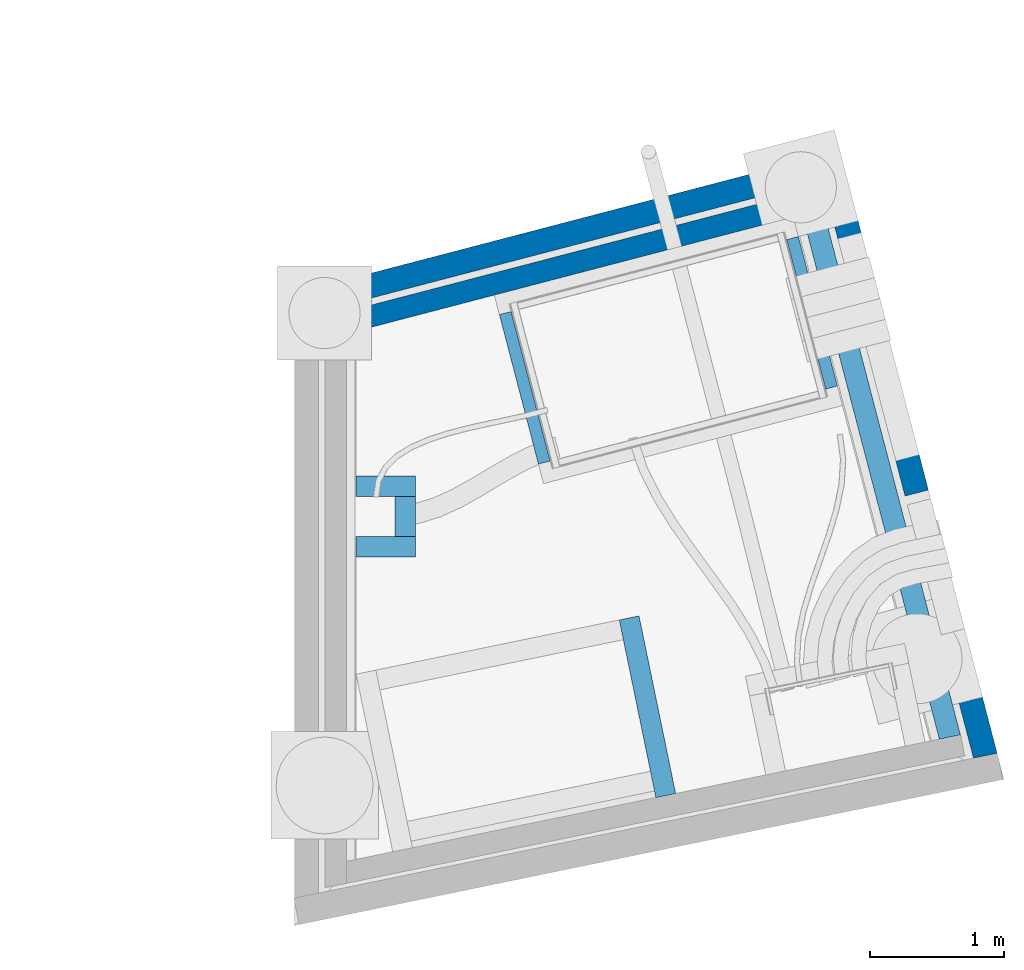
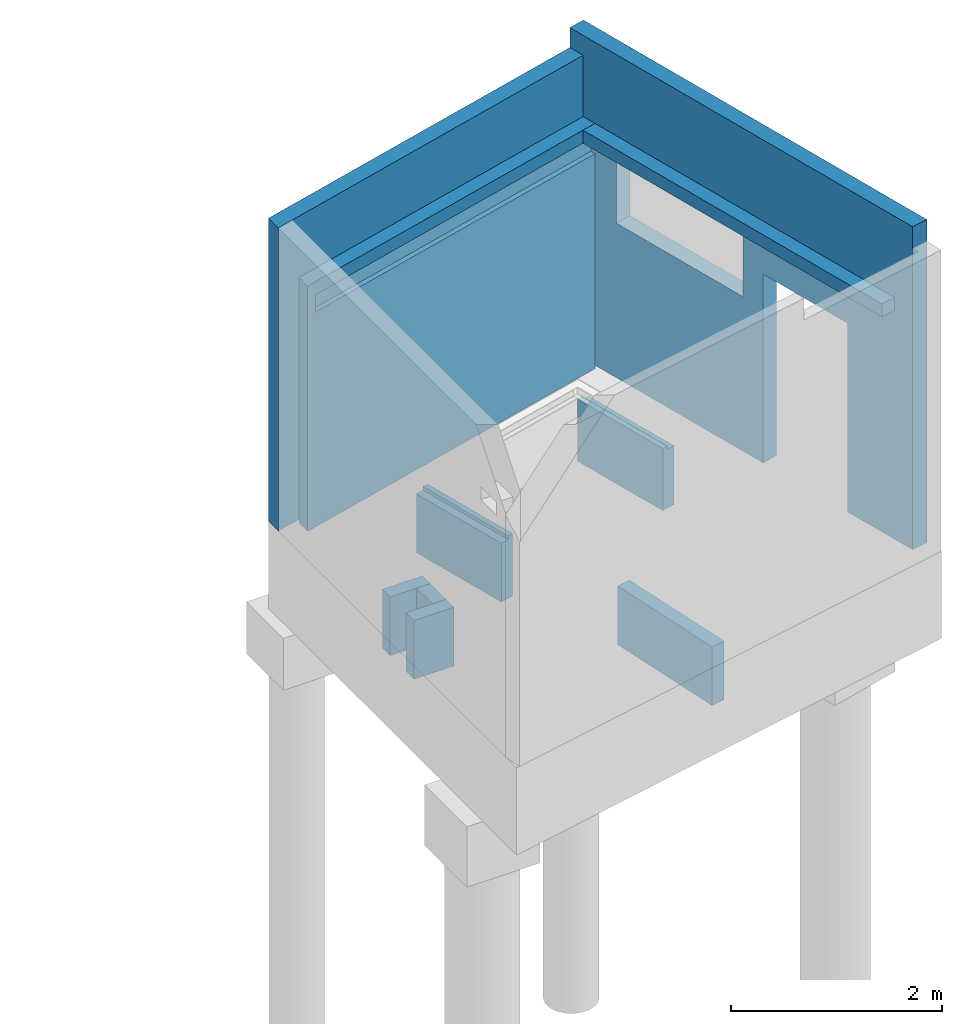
# One storey, part 7 of 29: 10 walls, 7 openings.
"""IFC2X3 building model written with IfcOpenShell, lengths in centimetres."""

from ifc_helpers import new_model, entity, si_unit, converted_unit, derived_unit, direction, frame, frame_2d, origin, place, context, subcontext, project, spatial, polyline, rectangle, outline, extrude, clip, bounded_halfspace, material, layer, layer_set, layer_usage, type_object, element, save


model = new_model("IFC2X3")

# Units and contexts
model_context = context("Model", 3, precision=0.001, world=origin(), true_north=direction((6.12303176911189e-17, 1.0)))
body_context = subcontext(model_context, "Body", "Model", "MODEL_VIEW")
ifc_project = project(units=[si_unit("LENGTHUNIT", "METRE", prefix="CENTI"), si_unit("AREAUNIT", "SQUARE_METRE"), si_unit("VOLUMEUNIT", "CUBIC_METRE"), converted_unit("PLANEANGLEUNIT", "DEGREE", entity("IfcRatioMeasure", 0.0174532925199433), si_unit("PLANEANGLEUNIT", "RADIAN"), dimensions=[0, 0, 0, 0, 0, 0, 0]), si_unit("MASSUNIT", "GRAM", prefix="KILO"), derived_unit("MASSDENSITYUNIT", [(si_unit("MASSUNIT", "GRAM", prefix="KILO"), 1), (si_unit("LENGTHUNIT", "METRE"), -3)]), si_unit("TIMEUNIT", "SECOND"), si_unit("FREQUENCYUNIT", "HERTZ"), si_unit("THERMODYNAMICTEMPERATUREUNIT", "DEGREE_CELSIUS"), derived_unit("THERMALTRANSMITTANCEUNIT", [(si_unit("MASSUNIT", "GRAM", prefix="KILO"), 1), (si_unit("THERMODYNAMICTEMPERATUREUNIT", "KELVIN"), -1), (si_unit("TIMEUNIT", "SECOND"), -3)]), derived_unit("VOLUMETRICFLOWRATEUNIT", [(si_unit("LENGTHUNIT", "METRE"), 3), (si_unit("TIMEUNIT", "SECOND"), -1)]), si_unit("ELECTRICCURRENTUNIT", "AMPERE"), si_unit("ELECTRICVOLTAGEUNIT", "VOLT"), si_unit("POWERUNIT", "WATT"), si_unit("FORCEUNIT", "NEWTON"), si_unit("ILLUMINANCEUNIT", "LUX"), si_unit("LUMINOUSFLUXUNIT", "LUMEN"), si_unit("LUMINOUSINTENSITYUNIT", "CANDELA"), derived_unit("USERDEFINED", [(si_unit("MASSUNIT", "GRAM", prefix="KILO"), -1), (si_unit("LENGTHUNIT", "METRE"), -2), (si_unit("TIMEUNIT", "SECOND"), 3), (si_unit("LUMINOUSFLUXUNIT", "LUMEN"), 1)]), derived_unit("LINEARVELOCITYUNIT", [(si_unit("LENGTHUNIT", "METRE"), 1), (si_unit("TIMEUNIT", "SECOND"), -1)]), si_unit("PRESSUREUNIT", "PASCAL"), derived_unit("USERDEFINED", [(si_unit("LENGTHUNIT", "METRE"), -2), (si_unit("MASSUNIT", "GRAM", prefix="KILO"), 1), (si_unit("TIMEUNIT", "SECOND"), -2)])], contexts=[model_context])

# Site, building, storey
site_placement = place(None, origin())
site = spatial("IfcSite", under=ifc_project, at=site_placement, Name="Default", CompositionType="ELEMENT")
building_placement = place(site_placement, origin())
building = spatial("IfcBuilding", under=site, at=building_placement, Name="CAGE 03", CompositionType="ELEMENT")
storey_placement = place(building_placement, frame((0.0, 0.0, -34.0)))
storey = spatial("IfcBuildingStorey", under=building, at=storey_placement, Name="+3.66", CompositionType="ELEMENT", Elevation=-34.0000000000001)

# Wall
ifc_material = material(Name="Béton, C25/30")
ifc_layer_1 = layer(ifc_material, 18.0)
ifc_layer_set_1 = layer_set([ifc_layer_1], Name="Mur de base:Voile BA 18")
ifc_layer_usage_1 = layer_usage(ifc_layer_set_1, "AXIS2", "POSITIVE", -9.0)
wall_type_1 = type_object("IfcWallType", Name="Mur de base:Voile BA 18", PredefinedType="STANDARD", material=ifc_layer_set_1)
wall_1_placement = place(storey_placement, frame((11199.0917029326, 3823.78537578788, 0.0), z_axis=(0.0, 0.0, 1.0), x_axis=(0.967549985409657, 0.252679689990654, 0.0)))
element("IfcWallStandardCase", 1, at=wall_1_placement, inside=storey, type_object=wall_type_1, material=ifc_layer_usage_1, Name="Mur de base:Voile BA 18", ObjectType="Mur de base:Voile BA 18", context=body_context, shape_type="SweptSolid", body=[
    extrude(outline(polyline([(406.360862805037, -9.0), (406.360862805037, 9.0), (4.70077462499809, 9.0), (0.0, -9.0), (18.6036900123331, -9.0), (406.360862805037, -9.0)])), origin(), (0.0, 0.0, 1.0), 351.0),
])

# Wall, openings
ifc_layer_usage_2 = layer_usage(ifc_layer_set_1, "AXIS2", "POSITIVE", -9.0)
wall_2_placement = place(storey_placement, frame((11715.8385133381, 3488.90485544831, 0.0), z_axis=(0.0, 0.0, 1.0), x_axis=(-0.252679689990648, 0.967549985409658, 0.0)))
wall_2 = element("IfcWallStandardCase", 2, at=wall_2_placement, inside=storey, type_object=wall_type_1, material=ifc_layer_usage_2, Name="Mur de base:Voile BA 18", ObjectType="Mur de base:Voile BA 18", context=body_context, shape_type="SweptSolid", body=[
    extrude(outline(polyline([(0.0, -9.0), (202.585066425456, -9.0), (220.585066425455, -9.0), (463.585066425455, -9.0), (463.585066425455, 9.0), (220.585066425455, 9.0), (202.585066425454, 9.0), (0.94029150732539, 9.0), (0.0, -9.0)])), origin(), (0.0, 0.0, 1.0), 374.0),
])
opening_1_placement = place(storey_placement, frame((11715.8385133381, 3488.90485544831, 0.0), z_axis=(0.0, 0.0, 1.0), x_axis=(-0.252679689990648, 0.967549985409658, 0.0)))
element("IfcOpeningElement", 3, at=opening_1_placement, cuts=wall_2, Name="Mur de base:Voile BA 18:1", ObjectType="Opening", context=body_context, shape_type="SweptSolid", body=[
    extrude(rectangle(XDim=17.9999999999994, YDim=171.0, at=frame_2d((-5.02229369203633e-11, -3.12638803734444e-13), x_axis=(1.0, 0.0))), frame((315.085066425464, 0.0, 179.0), z_axis=(0.0, 0.0, 1.0), x_axis=(0.0, 1.0, 0.0)), (0.0, 0.0, 1.0), 69.9999999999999),
])
opening_2_placement = place(wall_2_placement, origin())
element("IfcOpeningElement", 4, at=opening_2_placement, cuts=wall_2, Name="Mur de base:Voile BA 18", ObjectType="Recess", context=body_context, shape_type="SweptSolid", body=[
    extrude(rectangle(XDim=35.5000000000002, YDim=113.5, at=frame_2d((4.19220214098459e-13, -1.4210854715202e-14), x_axis=(0.0, 1.0))), frame((145.835066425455, -9.0, 236.25), z_axis=(0.0, 1.0, 0.0), x_axis=(1.0, 0.0, 0.0)), (0.0, 0.0, 1.0), 1.99999999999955),
])
opening_3_placement = place(wall_2_placement, origin())
element("IfcOpeningElement", 5, at=opening_3_placement, cuts=wall_2, Name="Mur de base:Voile BA 18", ObjectType="Opening", context=body_context, shape_type="SweptSolid", body=[
    extrude(rectangle(XDim=226.0, YDim=18.0000000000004, at=frame_2d((-4.2810199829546e-13, -5.6843418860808e-14), x_axis=(0.0, 1.0))), frame((211.585066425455, 65.0, 487.0), z_axis=(0.0, 1.0, 0.0), x_axis=(1.0, 0.0, 0.0)), (0.0, 0.0, 1.0), 91.0000000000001),
])
opening_4_placement = place(wall_2_placement, origin())
element("IfcOpeningElement", 6, at=opening_4_placement, cuts=wall_2, Name="Mur de base:Voile BA 18", ObjectType="Opening", context=body_context, shape_type="SweptSolid", body=[
    extrude(rectangle(XDim=210.000000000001, YDim=18.0000000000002, at=frame_2d((-4.33431068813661e-13, 0.0), x_axis=(0.0, 1.0))), frame((1315.97882186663, 37.6740974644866, 89.0), z_axis=(0.252679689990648, 0.967549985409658, 0.0), x_axis=(0.967549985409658, -0.252679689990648, 0.0)), (0.0, 0.0, 1.0), 97.0),
])
opening_5_placement = place(wall_2_placement, origin())
element("IfcOpeningElement", 7, at=opening_5_placement, cuts=wall_2, Name="Mur de base:Voile BA 18", ObjectType="Recess", context=body_context, shape_type="SweptSolid", body=[
    extrude(rectangle(XDim=50.0000000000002, YDim=110.0, at=frame_2d((-6.3593574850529e-13, -1.24344978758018e-14), x_axis=(0.0, 1.0))), frame((1022.58506642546, -9.0, 229.0), z_axis=(0.0, 1.0, 0.0), x_axis=(1.0, 0.0, 0.0)), (0.0, 0.0, 1.0), 2.00000000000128),
])
opening_6_placement = place(wall_2_placement, frame((-415.335398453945, 12217.2347799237, 0.0), z_axis=(0.0, 0.0, 1.0), x_axis=(-0.252679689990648, -0.967549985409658, 0.0)))
element("IfcOpeningElement", 8, at=opening_6_placement, cuts=wall_2, Name="Mur de base:Voile BA 18", ObjectType="Opening", context=body_context, shape_type="SweptSolid", body=[
    extrude(rectangle(XDim=218.5, YDim=113.5, at=frame_2d((0.0, 0.0), x_axis=(0.0, 1.0))), frame((11817.7356218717, 3666.24183938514, 109.25), z_axis=(-0.967549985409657, -0.252679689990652, 0.0), x_axis=(0.252679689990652, -0.967549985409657, 0.0)), (0.0, 0.0, 1.0), 304.8),
])

# Wall, opening
ifc_layer_2 = layer(ifc_material, 16.0)
ifc_layer_set_2 = layer_set([ifc_layer_2], Name="Mur de base:Voile BA 16")
ifc_layer_usage_3 = layer_usage(ifc_layer_set_2, "AXIS2", "NEGATIVE", 8.0)
wall_type_2 = type_object("IfcWallType", Name="Mur de base:Voile BA 16", PredefinedType="STANDARD", material=ifc_layer_set_2)
wall_3_placement = place(storey_placement, frame((11222.3443826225, 3807.12006614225, 1.0), z_axis=(0.0, 0.0, 1.0), x_axis=(0.967549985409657, 0.252679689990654, 0.0)))
wall_3 = element("IfcWallStandardCase", 9, at=wall_3_placement, inside=storey, type_object=wall_type_2, material=ifc_layer_usage_3, Name="Mur de base:Voile BA 16", ObjectType="Mur de base:Voile BA 16", context=body_context, shape_type="SweptSolid", body=[
    extrude(outline(polyline([(383.073718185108, -8.0), (383.073718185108, 8.0), (4.17846633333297, 8.0), (0.0, -8.0), (16.5366133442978, -8.0), (383.073718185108, -8.0)])), origin(), (0.0, 0.0, 1.0), 284.0),
])
opening_7_placement = place(storey_placement, frame((11222.3443826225, 3807.12006614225, 1.0), z_axis=(0.0, 0.0, 1.0), x_axis=(0.967549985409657, 0.252679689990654, 0.0)))
element("IfcOpeningElement", 10, at=opening_7_placement, cuts=wall_3, Name="Mur de base:Voile BA 16:1", ObjectType="Opening", context=body_context, shape_type="SweptSolid", body=[
    extrude(outline(polyline([(-221.908777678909, -3.3000000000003), (148.876440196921, -3.30000000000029), (150.312787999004, 2.19999999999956), (144.628327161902, 2.19999999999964), (-221.908777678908, 2.1999999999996), (-221.908777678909, -3.3000000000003)])), frame((161.164940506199, -5.79999999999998, 249.0), z_axis=(0.0, 0.0, 1.0), x_axis=(-1.0, 0.0, 0.0)), (0.0, 0.0, 1.0), 20.0),
])

# Walls
ifc_layer_usage_4 = layer_usage(ifc_layer_set_2, "AXIS2", "NEGATIVE", 8.0)
wall_4_placement = place(storey_placement, frame((11587.2683907, 3894.15317709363, 270.0), z_axis=(0.0, 0.0, 1.0), x_axis=(0.252679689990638, -0.967549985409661, 0.0)))
element("IfcWallStandardCase", 11, at=wall_4_placement, inside=storey, type_object=wall_type_2, material=ifc_layer_usage_4, Name="Mur de base:Voile BA 16", ObjectType="Mur de base:Voile BA 16", context=body_context, shape_type="SweptSolid", body=[
    extrude(outline(polyline([(403.521861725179, -8.0), (404.357676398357, 8.0), (0.0, 8.0), (0.0, -8.0), (403.521861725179, -8.0)])), origin(), (0.0, 0.0, 1.0), 15.0),
])
ifc_layer_3 = layer(ifc_material, 15.0)
ifc_layer_set_3 = layer_set([ifc_layer_3], Name="Mur de base:Voile BA 15")
ifc_layer_usage_5 = layer_usage(ifc_layer_set_3, "AXIS2", "NEGATIVE", 7.5)
wall_type_3 = type_object("IfcWallType", Name="Mur de base:Voile BA 15", PredefinedType="STANDARD", material=ifc_layer_set_3)
wall_5_placement = place(storey_placement, frame((11598.3468757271, 3762.68638596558, -80.0), z_axis=(0.0, 0.0, 1.0), x_axis=(-0.252679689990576, 0.967549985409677, 0.0)))
element("IfcWallStandardCase", 12, at=wall_5_placement, inside=storey, type_object=wall_type_3, material=ifc_layer_usage_5, Name="Mur de base:Voile BA 15", ObjectType="Mur de base:Voile BA 15", context=body_context, shape_type="Clipping", body=[
    clip(clip(extrude(rectangle(XDim=115.0, YDim=14.9999999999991, at=frame_2d((57.5000000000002, -1.86961557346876e-13), x_axis=(-1.0, 0.0))), origin(), (0.0, 0.0, 1.0), 72.0), bounded_halfspace(frame((115.0, 1.49999999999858, 68.0), z_axis=(0.0, 0.0, -1.0), x_axis=(-1.0, 0.0, 0.0)), True, frame((115.0, 1.49999999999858, 68.0), z_axis=(0.0, 0.0, -1.0), x_axis=(-1.0, 0.0, 0.0)), polyline([(0.0, 0.0), (0.0, -9.0), (115.0, -9.0), (115.0, 0.0), (0.0, 0.0)]))), bounded_halfspace(frame((0.0, 1.49999999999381, 68.0), z_axis=(0.0, 1.0, 0.0), x_axis=(0.0, 0.0, 1.0)), True, frame((0.0, 1.49999999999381, 68.0), z_axis=(0.0, 1.0, 0.0), x_axis=(0.0, 0.0, 1.0)), polyline([(0.0, 0.0), (4.0, 0.0), (4.0, 115.0), (0.0, 115.0), (0.0, 0.0)]))),
])
ifc_layer_usage_6 = layer_usage(ifc_layer_set_3, "AXIS2", "POSITIVE", -7.5)
wall_6_placement = place(storey_placement, frame((11390.323628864, 3708.36025261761, -80.0), z_axis=(0.0, 0.0, 1.0), x_axis=(-0.252679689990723, 0.967549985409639, 0.0)))
element("IfcWallStandardCase", 13, at=wall_6_placement, inside=storey, type_object=wall_type_3, material=ifc_layer_usage_6, Name="Mur de base:Voile BA 15", ObjectType="Mur de base:Voile BA 15", context=body_context, shape_type="Clipping", body=[
    clip(clip(extrude(rectangle(XDim=114.99999999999, YDim=14.9999999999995, at=frame_2d((57.4999999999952, 4.53415083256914e-13), x_axis=(-1.0, 0.0))), origin(), (0.0, 0.0, 1.0), 72.0), bounded_halfspace(frame((0.0, -1.49999999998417, 68.0), z_axis=(0.0, 0.0, -1.0), x_axis=(-1.0, 0.0, 0.0)), True, frame((0.0, -1.49999999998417, 68.0), z_axis=(0.0, 0.0, -1.0), x_axis=(-1.0, 0.0, 0.0)), polyline([(0.0, 0.0), (0.0, 9.0), (-115.0, 9.0), (-115.0, 0.0), (0.0, 0.0)]))), bounded_halfspace(frame((115.0, -1.49999999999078, 68.0), z_axis=(0.0, -1.0, 0.0), x_axis=(0.0, 0.0, 1.0)), True, frame((115.0, -1.49999999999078, 68.0), z_axis=(0.0, -1.0, 0.0), x_axis=(0.0, 0.0, 1.0)), polyline([(0.0, 0.0), (4.0, 0.0), (4.0, 115.0), (0.0, 115.0), (0.0, 0.0)]))),
])
ifc_layer_usage_7 = layer_usage(ifc_layer_set_3, "AXIS2", "NEGATIVE", 7.5)
wall_7_placement = place(storey_placement, frame((11477.8455135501, 3459.73227228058, -80.0), z_axis=(0.0, 0.0, 1.0), x_axis=(-0.201861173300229, 0.979414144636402, 0.0)))
element("IfcWallStandardCase", 14, at=wall_7_placement, inside=storey, type_object=wall_type_3, material=ifc_layer_usage_7, Name="Mur de base:Voile BA 15", ObjectType="Mur de base:Voile BA 15", context=body_context, shape_type="Clipping", body=[
    clip(extrude(rectangle(XDim=135.000000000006, YDim=15.0000000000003, at=frame_2d((67.500000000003, -2.36255459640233e-13), x_axis=(-1.0, 0.0))), origin(), (0.0, 0.0, 1.0), 68.0), bounded_halfspace(frame((0.0, -7.50000000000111, 68.0), z_axis=(0.0, 0.0, -1.0), x_axis=(-0.998638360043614, -0.0521672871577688, 0.0)), True, frame((0.0, -7.50000000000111, 68.0), z_axis=(0.0, 0.0, -1.0), x_axis=(-0.998638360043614, -0.0521672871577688, 0.0)), polyline([(0.0, 0.0), (-0.782509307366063, 14.9795754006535), (-5.7757011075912, 14.718738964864), (-135.598687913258, 7.93699163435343), (-134.816178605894, -7.04258376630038), (0.0, 0.0)]))),
])
ifc_layer_usage_8 = layer_usage(ifc_layer_set_3, "AXIS2", "POSITIVE", -7.5)
wall_8_placement = place(storey_placement, frame((11247.3658201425, 3689.9697743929, -80.0)))
element("IfcWallStandardCase", 15, at=wall_8_placement, inside=storey, type_object=wall_type_3, material=ifc_layer_usage_8, Name="Mur de base:Voile BA 15", ObjectType="Mur de base:Voile BA 15", context=body_context, shape_type="Clipping", body=[
    clip(extrude(rectangle(XDim=44.0000000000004, YDim=15.0000000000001, at=frame_2d((22.0000000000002, 1.21680443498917e-13), x_axis=(-1.0, 0.0))), origin(), (0.0, 0.0, 1.0), 68.0), bounded_halfspace(frame((29.0, -7.50000000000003, 68.0), z_axis=(0.0, 0.0, -1.0), x_axis=(0.252679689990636, -0.967549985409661, 0.0)), True, frame((29.0, -7.50000000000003, 68.0), z_axis=(0.0, 0.0, -1.0), x_axis=(0.252679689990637, -0.967549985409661, 0.0)), polyline([(0.0, 0.0), (-7.32771100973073, 28.0589495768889), (-21.8409607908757, 24.2687542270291), (-10.7230544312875, -18.3034451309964), (3.79019534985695, -14.5132497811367), (0.0, 0.0)]))),
])
ifc_layer_usage_9 = layer_usage(ifc_layer_set_3, "AXIS2", "NEGATIVE", 7.5)
wall_9_placement = place(storey_placement, frame((11247.3658201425, 3644.96977439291, -80.0)))
element("IfcWallStandardCase", 16, at=wall_9_placement, inside=storey, type_object=wall_type_3, material=ifc_layer_usage_9, Name="Mur de base:Voile BA 15", ObjectType="Mur de base:Voile BA 15", context=body_context, shape_type="Clipping", body=[
    clip(extrude(rectangle(XDim=43.9999999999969, YDim=15.0000000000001, at=frame_2d((21.9999999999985, 2.70894418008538e-14), x_axis=(-1.0, 0.0))), origin(), (0.0, 0.0, 1.0), 68.0), bounded_halfspace(frame((0.0, -7.50000000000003, 68.0), z_axis=(0.0, 0.0, -1.0), x_axis=(0.252679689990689, -0.967549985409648, 0.0)), True, frame((0.0, -7.50000000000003, 68.0), z_axis=(0.0, 0.0, -1.0), x_axis=(0.252679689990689, -0.967549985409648, 0.0)), polyline([(0.0, 0.0), (-14.5132497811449, -3.79019534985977), (-7.18553877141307, -31.8491449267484), (-3.39534342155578, -46.3623947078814), (11.1179063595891, -42.5721993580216), (0.0, 0.0)]))),
])
ifc_layer_usage_10 = layer_usage(ifc_layer_set_3, "AXIS2", "NEGATIVE", 7.5)
wall_10_placement = place(storey_placement, frame((11283.8658201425, 3652.4697743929, -80.0), z_axis=(0.0, 0.0, 1.0), x_axis=(0.0, 1.0, 0.0)))
element("IfcWallStandardCase", 17, at=wall_10_placement, inside=storey, type_object=wall_type_3, material=ifc_layer_usage_10, Name="Mur de base:Voile BA 15", ObjectType="Mur de base:Voile BA 15", context=body_context, shape_type="Clipping", body=[
    clip(extrude(rectangle(XDim=30.0000000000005, YDim=15.0000000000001, at=frame_2d((15.0000000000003, -7.46513961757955e-13), x_axis=(-1.0, 0.0))), origin(), (0.0, 0.0, 1.0), 68.0), bounded_halfspace(frame((0.0, -7.5000000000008, 68.0), z_axis=(0.0, 0.0, -1.0), x_axis=(-0.967549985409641, -0.252679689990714, 0.0)), True, frame((0.0, -7.5000000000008, 68.0), z_axis=(0.0, 0.0, -1.0), x_axis=(-0.967549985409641, -0.252679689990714, 0.0)), polyline([(0.0, 0.0), (-3.79019534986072, 14.5132497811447), (-32.8166949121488, 6.932859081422), (-29.0264995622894, -7.580390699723), (0.0, 0.0)]))),
])

save(model, "model.ifc")
